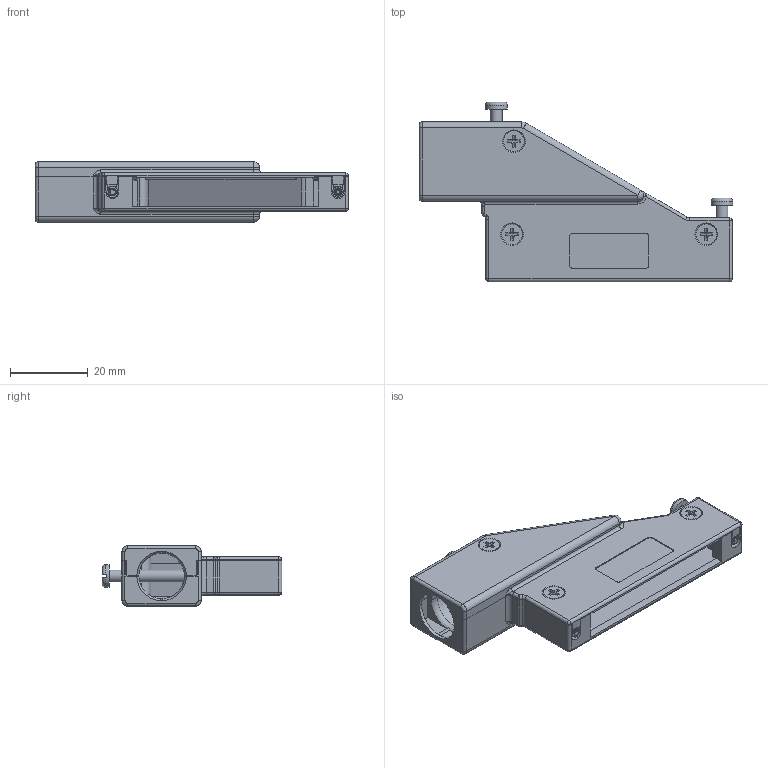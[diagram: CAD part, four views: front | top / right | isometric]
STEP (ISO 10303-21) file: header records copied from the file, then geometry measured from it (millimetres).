
FILE_DESCRIPTION((''),'2;1');
FILE_NAME('D:\_NTC CAD MODELS & ASSEMBLIES - STEP\STEP FILES\covers - ntc\ntc cmhd series - from step files\cmhd_90d_sl_68\cmhd_90d_sl_68_assy.stp','2016-08-22T13:19:11',('j_dipietro'),(''),'Autodesk Inventor 2012','Autodesk Inventor 2012','');
FILE_SCHEMA(('CONFIG_CONTROL_DESIGN'));
Length unit declared in the file: inch
Products named in the file (6): cmhd_90d_sl_68_assy; cmhd_90d_sl_68_bot; capt_screw; screw; b71e024302; cmhd_90d_sl_68_top
Assembly tree (7 placements, depth 2):
  cmhd_90d_sl_68_assy
    cmhd_90d_sl_68_bot
    capt_screw
    screw  x3
    b71e024302
    cmhd_90d_sl_68_top
Bounding box: 80.52 x 46.1 x 15.49 mm (x, y, z)
Volume: 9895.3 mm3; surface area: 14949.7 mm2
Topology: 7 solids, 7 shells, 420 faces, 1092 edges, 695 vertices
Faces by surface type: plane 240, cylinder 103, cone 23, torus 22, bspline 19, sphere 13
Full cylindrical faces by diameter (mm): 2.032 x2, 2.54 x3, 2.794 x1, 2.896 x1, 3.048 x2, 3.15 x3, 4.826 x1, 5.588 x1, 5.715 x1
Entity records: 15219 total; most frequent: CARTESIAN_POINT 6145, DIRECTION 1863, ORIENTED_EDGE 1826, EDGE_CURVE 913, AXIS2_PLACEMENT_3D 632, VECTOR 599, LINE 599, VERTEX_POINT 588
